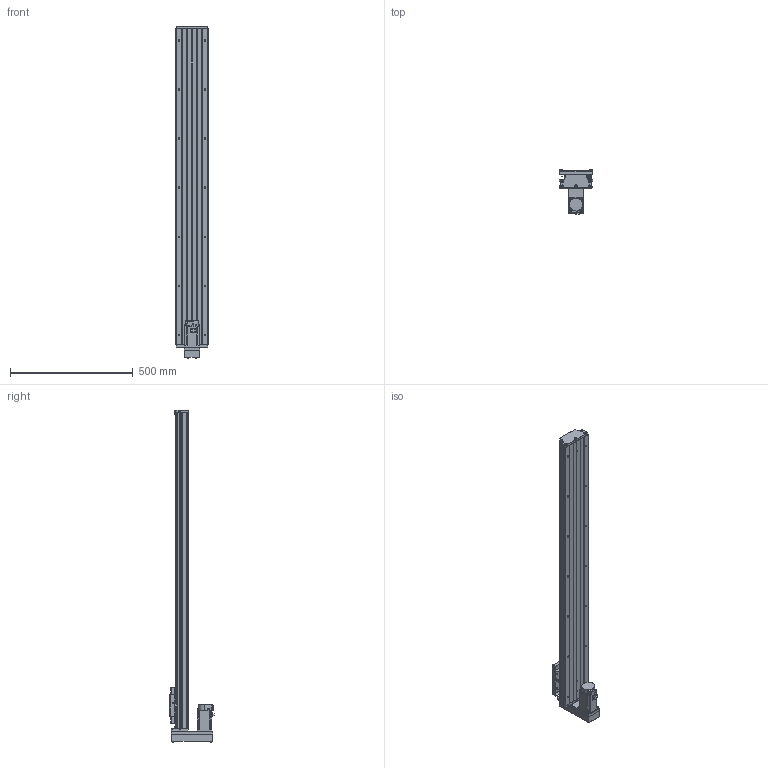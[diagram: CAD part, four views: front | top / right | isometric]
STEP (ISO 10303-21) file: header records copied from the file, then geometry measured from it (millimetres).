
FILE_DESCRIPTION (( 'STEP AP203' ), '1' );
FILE_NAME ('CTH130-1100-BM-M40-C4.step', '2023-06-30T02:43:08', ( '微软用户' ), ( '微软中国' ), 'SwSTEP 2.0', 'SolidWorks 2020', '' );
FILE_SCHEMA (( 'CONFIG_CONTROL_DESIGN' ));
Length unit declared in the file: millimetre
Products named in the file (20): EE_SX911P_R; HG-KN43J-S100; GB T308.1-2013-6.35; CTHA60-016; GBT 70.2-M4¡Á35_M4¡Á35; GTH14-004; GBT 70.1-M3℅5; GTH14-015-2_CTHA86-015-2; GTH14-005; GBT77-2000 M3×3; GTH14-033; GB1155-6X6; CTH130-031; CTH130-1100-BM-M40-C4; GBT70.1 M5℅16; GBT 70.2-M3¡Á5_M3¡Á6; GTH14-001_1100; CTHA60-017; す晦芛蹟隊 M3℅5; CTH130-002_GTH14-002
Assembly tree (60 placements, depth 2):
  CTH130-1100-BM-M40-C4
    GTH14-001_1100
    CTH130-002_GTH14-002
    GB T308.1-2013-6.35  x2
    GTH14-004
    GTH14-005
    GB1155-6X6  x2
    GBT70.1 M5℅16  x10
    CTHA60-017  x3
    EE_SX911P_R  x3
    CTHA60-016  x2
    GBT 70.1-M3℅5  x6
    GBT77-2000 M3×3  x6
    CTH130-031
    GBT 70.2-M3¡Á5_M3¡Á6  x8
    す晦芛蹟隊 M3℅5  x6
    HG-KN43J-S100
    GBT 70.2-M4¡Á35_M4¡Á35  x4
    GTH14-015-2_CTHA86-015-2
    GTH14-033
Bounding box: 135 x 179.8 x 1354.2 mm (x, y, z)
Volume: 7029920.7 mm3; surface area: 1121657.6 mm2
Topology: 63 solids, 63 shells, 2455 faces, 5845 edges, 3617 vertices
Faces by surface type: plane 1314, cylinder 662, cone 299, torus 124, sphere 36, bspline 20
Entity records: 44540 total; most frequent: CARTESIAN_POINT 9947, DIRECTION 6522, ORIENTED_EDGE 6396, EDGE_CURVE 3198, AXIS2_PLACEMENT_3D 2236, LINE 2050, VECTOR 2050, VERTEX_POINT 2027
